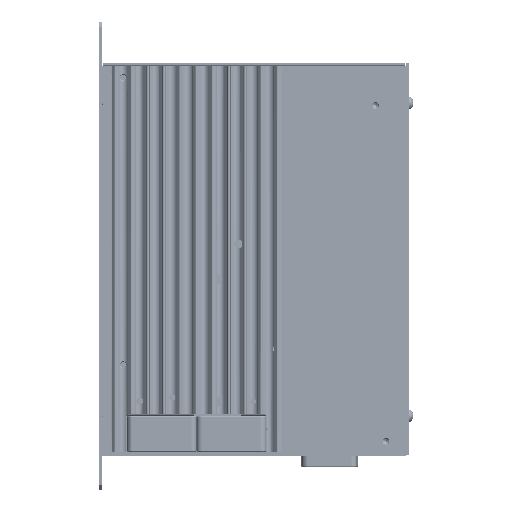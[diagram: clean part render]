
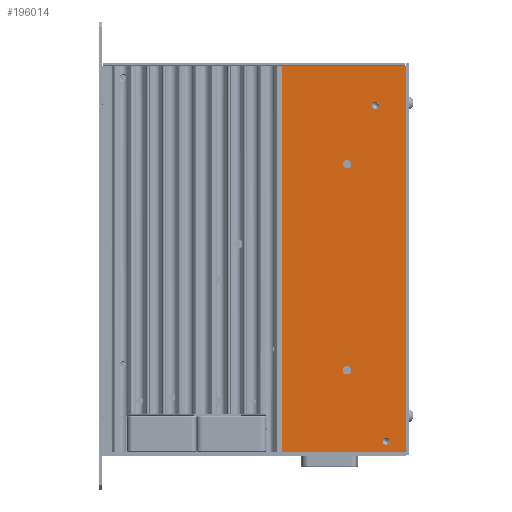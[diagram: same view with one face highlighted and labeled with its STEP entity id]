
A CAD part, left-side view. The second image highlights one B-rep face of the part: STEP entity #196014.
In plain terms, the highlighted planar face has unit normal (-1, 0, 0).
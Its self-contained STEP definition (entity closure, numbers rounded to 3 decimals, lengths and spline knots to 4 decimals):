
#3667=FACE_BOUND('',#31690,.T.);
#3668=FACE_BOUND('',#31691,.T.);
#3669=FACE_BOUND('',#31692,.T.);
#3670=FACE_BOUND('',#31693,.T.);
#10417=PLANE('',#211005);
#19978=FACE_OUTER_BOUND('',#31689,.T.);
#31689=EDGE_LOOP('',(#170715,#170716,#170717,#170718));
#31690=EDGE_LOOP('',(#170719));
#31691=EDGE_LOOP('',(#170720));
#31692=EDGE_LOOP('',(#170721));
#31693=EDGE_LOOP('',(#170722));
#50731=LINE('',#321578,#70996);
#51472=LINE('',#323406,#71737);
#51487=LINE('',#323442,#71752);
#51488=LINE('',#323448,#71753);
#70996=VECTOR('',#257515,0.0394);
#71737=VECTOR('',#258668,0.0394);
#71752=VECTOR('',#258699,0.0394);
#71753=VECTOR('',#258706,0.0394);
#78251=CIRCLE('',#210521,0.0599);
#78252=CIRCLE('',#210523,0.0591);
#78314=CIRCLE('',#210969,0.0728);
#78317=CIRCLE('',#210974,0.0728);
#93560=VERTEX_POINT('',#319634);
#93561=VERTEX_POINT('',#319638);
#94310=VERTEX_POINT('',#321575);
#94311=VERTEX_POINT('',#321577);
#94597=VERTEX_POINT('',#322515);
#94600=VERTEX_POINT('',#322525);
#95033=VERTEX_POINT('',#323403);
#95034=VERTEX_POINT('',#323405);
#118809=EDGE_CURVE('',#93560,#93560,#78251,.T.);
#118811=EDGE_CURVE('',#93561,#93561,#78252,.T.);
#119740=EDGE_CURVE('',#94311,#94310,#50731,.T.);
#120138=EDGE_CURVE('',#94597,#94597,#78314,.T.);
#120143=EDGE_CURVE('',#94600,#94600,#78317,.T.);
#120586=EDGE_CURVE('',#95033,#95034,#51472,.T.);
#120605=EDGE_CURVE('',#94310,#95034,#51487,.T.);
#120608=EDGE_CURVE('',#94311,#95033,#51488,.T.);
#170715=ORIENTED_EDGE('',*,*,#120586,.F.);
#170716=ORIENTED_EDGE('',*,*,#120608,.F.);
#170717=ORIENTED_EDGE('',*,*,#119740,.T.);
#170718=ORIENTED_EDGE('',*,*,#120605,.T.);
#170719=ORIENTED_EDGE('',*,*,#118809,.T.);
#170720=ORIENTED_EDGE('',*,*,#118811,.T.);
#170721=ORIENTED_EDGE('',*,*,#120138,.F.);
#170722=ORIENTED_EDGE('',*,*,#120143,.F.);
#196014=ADVANCED_FACE('',(#19978,#3667,#3668,#3669,#3670),#10417,.T.);
#210521=AXIS2_PLACEMENT_3D('',#319636,#256153,#256154);
#210523=AXIS2_PLACEMENT_3D('',#319640,#256158,#256159);
#210969=AXIS2_PLACEMENT_3D('',#322516,#258189,#258190);
#210974=AXIS2_PLACEMENT_3D('',#322526,#258201,#258202);
#211005=AXIS2_PLACEMENT_3D('',#323447,#258704,#258705);
#256153=DIRECTION('center_axis',(1.,0.,0.));
#256154=DIRECTION('ref_axis',(0.,0.,
-1.));
#256158=DIRECTION('center_axis',(1.,0.,0.));
#256159=DIRECTION('ref_axis',(0.,0.,
1.));
#257515=DIRECTION('',(0.,-1.,0.));
#258189=DIRECTION('center_axis',(-1.,0.,0.));
#258190=DIRECTION('ref_axis',(0.,0.,
-1.));
#258201=DIRECTION('center_axis',(-1.,0.,0.));
#258202=DIRECTION('ref_axis',(0.,0.,
-1.));
#258668=DIRECTION('',(0.,-1.,0.));
#258699=DIRECTION('',(0.,0.,1.));
#258704=DIRECTION('center_axis',(-1.,0.,0.));
#258705=DIRECTION('ref_axis',(0.,1.,0.));
#258706=DIRECTION('',(0.,0.,1.));
#319634=CARTESIAN_POINT('',(-0.1575,-5.0591,-0.2157));
#319636=CARTESIAN_POINT('Origin',(-0.1575,-5.0591,
-0.2756));
#319638=CARTESIAN_POINT('',(-0.1575,-5.2362,-6.0433));
#319640=CARTESIAN_POINT('Origin',(-0.1575,-5.2362,
-5.9843));
#321575=CARTESIAN_POINT('',(-0.1575,-5.5775,-6.1731));
#321577=CARTESIAN_POINT('',(-0.1575,-3.4608,-6.1731));
#321578=CARTESIAN_POINT('',(-0.1575,-3.4608,-6.1731));
#322515=CARTESIAN_POINT('',(-0.1575,-4.5736,-1.3444));
#322516=CARTESIAN_POINT('Origin',(-0.1575,-4.5736,
-1.2716));
#322525=CARTESIAN_POINT('',(-0.1575,-4.5736,-4.8483));
#322526=CARTESIAN_POINT('Origin',(-0.1575,-4.5736,
-4.7755));
#323403=CARTESIAN_POINT('',(-0.1575,-3.4608,0.4017));
#323405=CARTESIAN_POINT('',(-0.1575,-5.5775,0.4017));
#323406=CARTESIAN_POINT('',(-0.1575,-3.4608,0.4017));
#323442=CARTESIAN_POINT('',(-0.1575,-5.5775,-6.1731));
#323447=CARTESIAN_POINT('Origin',(-0.1575,-3.4608,
-6.1731));
#323448=CARTESIAN_POINT('',(-0.1575,-3.4608,-6.1731));
